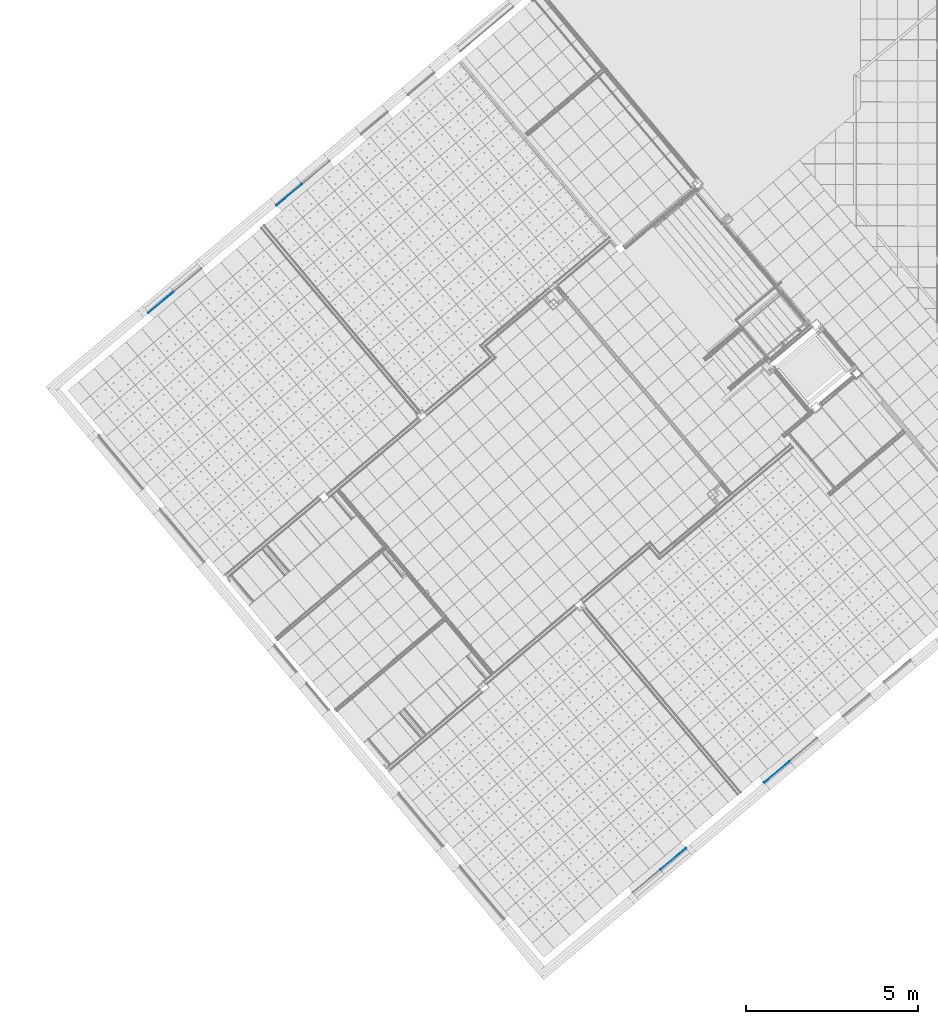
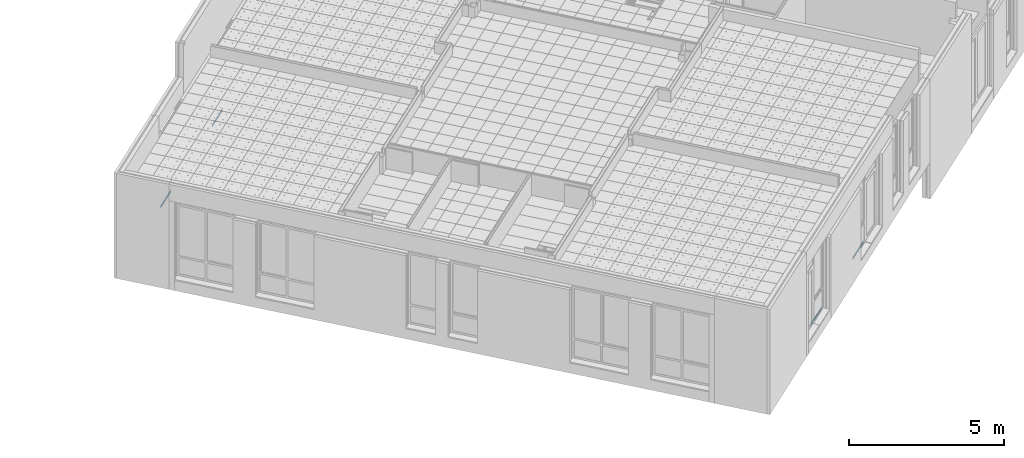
# One storey, part 113 of 338: 4 building element parts, 4 elements without a shape of their own.
"""IFC2X3 building model written with IfcOpenShell, lengths in millimetres."""

from ifc_helpers import new_model, entity, si_unit, converted_unit, derived_unit, money_unit, direction, frame, origin_with_axes, place, context, subcontext, project, spatial, faceted_brep, material, type_object, element, aggregate, save


model = new_model("IFC2X3")

# Units and contexts
model_context = context("Model", 3, precision=0.01, world=origin_with_axes(), true_north=direction((0.0, 1.0)))
plan_context = context("Plan", 3, precision=0.01, world=origin_with_axes(), true_north=direction((0.0, 1.0)))
body_context = subcontext(model_context, "Body", "Model", "MODEL_VIEW")
ifc_project = project(units=[si_unit("LENGTHUNIT", "METRE", prefix="MILLI"), si_unit("AREAUNIT", "SQUARE_METRE"), si_unit("VOLUMEUNIT", "CUBIC_METRE"), converted_unit("PLANEANGLEUNIT", "DEGREE", entity("IfcPlaneAngleMeasure", 0.0174532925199), si_unit("PLANEANGLEUNIT", "RADIAN"), dimensions=[0, 0, 0, 0, 0, 0, 0]), money_unit("EUR"), converted_unit("TIMEUNIT", "Year", entity("IfcTimeMeasure", 31556926.0), si_unit("TIMEUNIT", "SECOND"), dimensions=[0, 0, 1, 0, 0, 0, 0]), si_unit("MASSUNIT", "GRAM", prefix="KILO"), si_unit("THERMODYNAMICTEMPERATUREUNIT", "DEGREE_CELSIUS"), si_unit("LUMINOUSINTENSITYUNIT", "LUMEN"), si_unit("ENERGYUNIT", "JOULE", prefix="MEGA"), derived_unit("THERMALCONDUCTANCEUNIT", [(si_unit("POWERUNIT", "WATT"), 1), (si_unit("LENGTHUNIT", "METRE"), -1), (si_unit("THERMODYNAMICTEMPERATUREUNIT", "KELVIN"), -1)]), derived_unit("SPECIFICHEATCAPACITYUNIT", [(si_unit("ENERGYUNIT", "JOULE"), 1), (si_unit("MASSUNIT", "GRAM", prefix="KILO"), -1), (si_unit("THERMODYNAMICTEMPERATUREUNIT", "KELVIN"), -1)]), derived_unit("MASSDENSITYUNIT", [(si_unit("MASSUNIT", "GRAM", prefix="KILO"), 1), (si_unit("VOLUMEUNIT", "CUBIC_METRE"), -1)])], contexts=[model_context, plan_context])

# Site, building, storey
site_placement = place(None, origin_with_axes())
site = spatial("IfcSite", under=ifc_project, at=site_placement, Name="Fortuinstraat Woensdrecht", CompositionType="ELEMENT")
building_placement = place(site_placement, origin_with_axes())
building = spatial("IfcBuilding", under=site, at=building_placement, Name="IKC Fortuna", CompositionType="ELEMENT")
storey_placement = place(building_placement, origin_with_axes())
storey = spatial("IfcBuildingStorey", under=building, at=storey_placement, Name="00 begane grond", CompositionType="ELEMENT", Elevation=0.0)

# Covering, building element part
covering_type = type_object("IfcCoveringType", Name="41 dorpel 1450 280 x 88", PredefinedType="NOTDEFINED")
covering_1_placement = place(storey_placement, frame((2499.53138336, 2280.11297323, 1450.01141591), z_axis=(0.0, 0.0, 1.0), x_axis=(0.766044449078, 0.642787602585, 0.0)))
covering_1 = element("IfcCovering", 1, at=covering_1_placement, inside=storey, type_object=covering_type, Name="41_Afwerking_Dorpel", PredefinedType="NOTDEFINED")
ifc_material = material(Name="Isolatie - PUR gespoten")
building_element_part_1_placement = place(covering_1_placement, origin_with_axes())
building_element_part_1 = element("IfcBuildingElementPart", 2, at=building_element_part_1_placement, material=ifc_material, Name="Isolatie - PUR gespoten", context=body_context, shape_type="Brep", body=[
    faceted_brep([(966.999997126, -129.999999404, -85.0), (966.999997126, -140.000000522, -85.0), (0.0, -140.000000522, -85.0), (0.0, -129.999999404, -85.0), (966.999997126, -129.999999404, 2.49999869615), (966.999997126, -140.000000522, 2.5), (0.0, -140.000000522, 2.5), (0.0, -129.999999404, 2.49999869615)], [[[0, 1, 2, 3]], [[0, 4, 5, 1]], [[1, 5, 6, 2]], [[3, 2, 6, 7]], [[4, 0, 3, 7]], [[5, 4, 7, 6]]]),
])
aggregate(covering_1, [building_element_part_1])

covering_2_placement = place(storey_placement, frame((6222.50740632, 5404.06078097, 1447.5), z_axis=(0.0, 0.0, 1.0), x_axis=(0.766044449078, 0.642787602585, 0.0)))
covering_2 = element("IfcCovering", 3, at=covering_2_placement, inside=storey, type_object=covering_type, Name="41_Afwerking_Dorpel", PredefinedType="NOTDEFINED")
building_element_part_2_placement = place(covering_2_placement, origin_with_axes())
building_element_part_2 = element("IfcBuildingElementPart", 4, at=building_element_part_2_placement, material=ifc_material, Name="Isolatie - PUR gespoten", context=body_context, shape_type="Brep", body=[
    faceted_brep([(966.999999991, -129.999999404, -85.0), (966.999999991, -140.000000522, -85.0), (0.0, -140.000000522, -85.0), (0.0, -129.999999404, -85.0), (966.999999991, -129.999999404, 2.49999869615), (966.999999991, -140.000000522, 2.5), (0.0, -140.000000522, 2.5), (0.0, -129.999999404, 2.49999869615)], [[[0, 1, 2, 3]], [[0, 4, 5, 1]], [[1, 5, 6, 2]], [[3, 2, 6, 7]], [[4, 0, 3, 7]], [[5, 4, 7, 6]]]),
])
aggregate(covering_2, [building_element_part_2])

covering_3_placement = place(storey_placement, frame((17542.8258912, -14087.5493114, 1447.5), z_axis=(0.0, 0.0, 1.0), x_axis=(0.76604443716, 0.642787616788, 0.0)))
covering_3 = element("IfcCovering", 5, at=covering_3_placement, inside=storey, type_object=covering_type, Name="41_Afwerking_Dorpel", PredefinedType="NOTDEFINED")
building_element_part_3_placement = place(covering_3_placement, origin_with_axes())
building_element_part_3 = element("IfcBuildingElementPart", 6, at=building_element_part_3_placement, material=ifc_material, Name="Isolatie - PUR gespoten", context=body_context, shape_type="Brep", body=[
    faceted_brep([(967.000000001, 129.999999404, 2.49999869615), (967.000000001, 140.000000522, 2.5), (0.0, 140.000000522, 2.5), (0.0, 129.999999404, 2.49999869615), (967.000000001, 129.999999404, -85.0), (967.000000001, 140.000000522, -85.0), (0.0, 140.000000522, -85.0), (0.0, 129.999999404, -85.0)], [[[0, 1, 2, 3]], [[0, 4, 5, 1]], [[1, 5, 6, 2]], [[3, 2, 6, 7]], [[4, 0, 3, 7]], [[5, 4, 7, 6]]]),
])
aggregate(covering_3, [building_element_part_3])

covering_4_placement = place(storey_placement, frame((20551.1087968, -11563.3002343, 1447.5), z_axis=(0.0, 0.0, 1.0), x_axis=(0.76604443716, 0.642787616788, 0.0)))
covering_4 = element("IfcCovering", 7, at=covering_4_placement, inside=storey, type_object=covering_type, Name="41_Afwerking_Dorpel", PredefinedType="NOTDEFINED")
building_element_part_4_placement = place(covering_4_placement, origin_with_axes())
building_element_part_4 = element("IfcBuildingElementPart", 8, at=building_element_part_4_placement, material=ifc_material, Name="Isolatie - PUR gespoten", context=body_context, shape_type="Brep", body=[
    faceted_brep([(966.999999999, 129.999999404, 2.49999869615), (966.999999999, 140.000000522, 2.5), (0.0, 140.000000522, 2.5), (0.0, 129.999999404, 2.49999869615), (966.999999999, 129.999999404, -85.0), (966.999999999, 140.000000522, -85.0), (0.0, 140.000000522, -85.0), (0.0, 129.999999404, -85.0)], [[[0, 1, 2, 3]], [[0, 4, 5, 1]], [[1, 5, 6, 2]], [[3, 2, 6, 7]], [[4, 0, 3, 7]], [[5, 4, 7, 6]]]),
])
aggregate(covering_4, [building_element_part_4])

save(model, "model.ifc")
